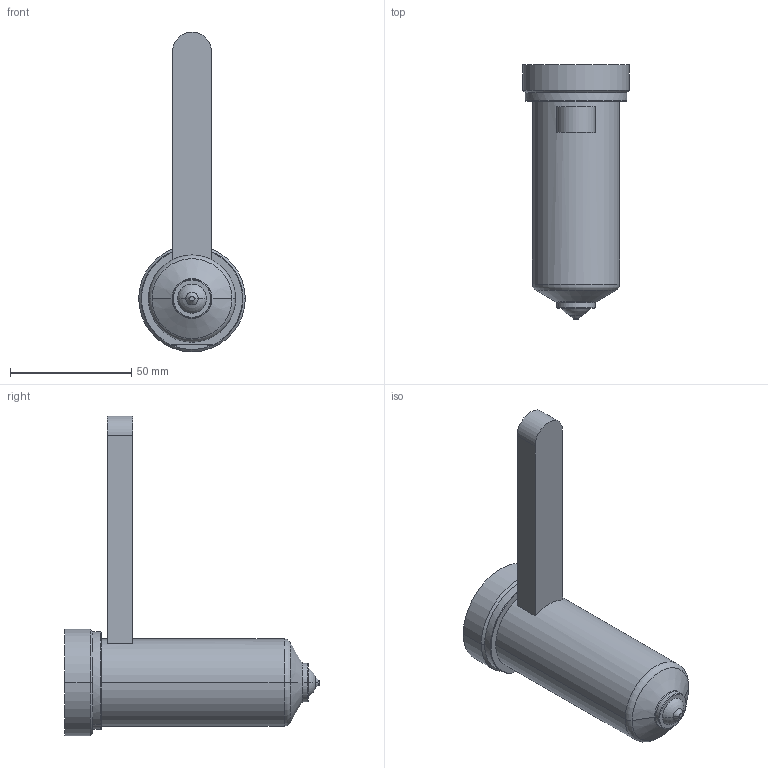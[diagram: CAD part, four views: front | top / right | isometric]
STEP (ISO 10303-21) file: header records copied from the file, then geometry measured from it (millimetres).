
FILE_DESCRIPTION((''),'2;1');
FILE_NAME('EO12_PG-BL_STD_090_COT','2024-02-19T11:11:58',('sundharh'),(''),'CREO PARAMETRIC BY PTC INC, 2023154','CREO PARAMETRIC BY PTC INC, 2023154','');
FILE_SCHEMA(('CONFIG_CONTROL_DESIGN'));
Length unit declared in the file: millimetre
Products named in the file (1): EO12_PG-BL_STD_090_COT
Bounding box: 44 x 105 x 132 mm (x, y, z)
Volume: 119949.6 mm3; surface area: 18778.5 mm2
Topology: 1 solids, 1 shells, 40 faces, 85 edges, 50 vertices
Faces by surface type: cylinder 13, plane 10, torus 9, cone 6, sphere 2
Entity records: 1185 total; most frequent: CARTESIAN_POINT 255, DIRECTION 209, ORIENTED_EDGE 170, AXIS2_PLACEMENT_3D 90, EDGE_CURVE 85, VERTEX_POINT 50, CIRCLE 50, EDGE_LOOP 43
